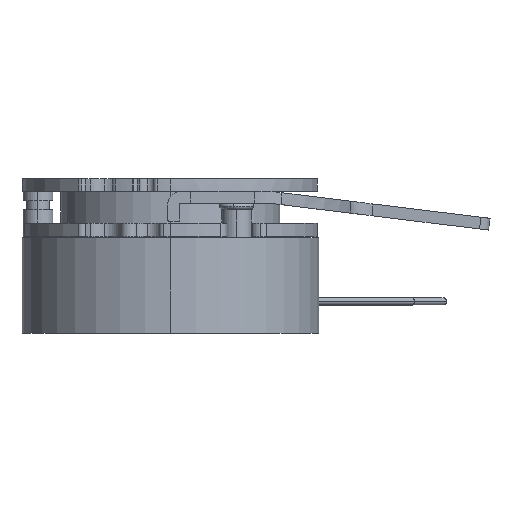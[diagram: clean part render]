
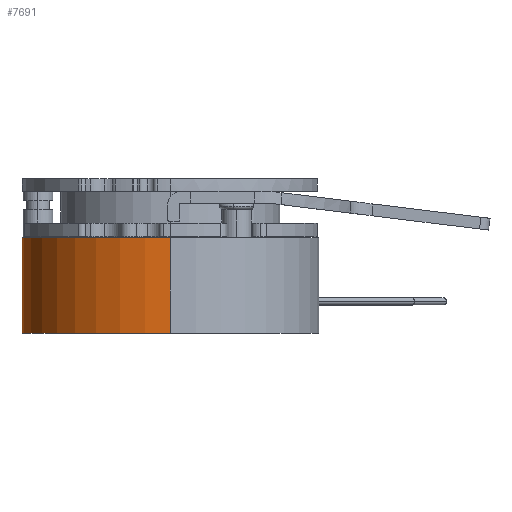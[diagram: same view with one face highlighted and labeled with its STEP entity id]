
A CAD part, left-side view. The second image highlights one B-rep face of the part: STEP entity #7691.
In plain terms, the highlighted cylindrical face has radius 32.5 mm (diameter 65 mm), a partial arc.
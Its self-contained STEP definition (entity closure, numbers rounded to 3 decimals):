
#1551 = CIRCLE ( 'NONE', #2102, 32.5 ) ;
#1554 = LINE ( 'NONE', #5498, #1558 ) ;
#1556 = CIRCLE ( 'NONE', #2103, 32.5 ) ;
#1558 = VECTOR ( 'NONE', #5496, 1000. ) ;
#1559 = LINE ( 'NONE', #5502, #1561 ) ;
#1561 = VECTOR ( 'NONE', #5497, 1000. ) ;
#2102 = AXIS2_PLACEMENT_3D ( 'NONE', #5499, #5500, #5501 ) ;
#2103 = AXIS2_PLACEMENT_3D ( 'NONE', #5503, #5504, #5505 ) ;
#2577 = CARTESIAN_POINT ( 'NONE',  ( 32.5, 0., 21. ) ) ;
#2586 = CARTESIAN_POINT ( 'NONE',  ( -32.5, 0., 21. ) ) ;
#2749 = CARTESIAN_POINT ( 'NONE',  ( -32.5, 0., 0. ) ) ;
#2751 = CARTESIAN_POINT ( 'NONE',  ( 32.5, 0., 0. ) ) ;
#3833 = CARTESIAN_POINT ( 'NONE',  ( 0., 0., 21. ) ) ;
#3836 = DIRECTION ( 'NONE',  ( 0., 0., -1. ) ) ;
#3844 = DIRECTION ( 'NONE',  ( -1., 0., 0. ) ) ;
#4497 = FACE_OUTER_BOUND ( 'NONE', #9869, .T. ) ;
#4513 = CYLINDRICAL_SURFACE ( 'NONE', #15803, 32.5 ) ;
#5496 = DIRECTION ( 'NONE',  ( 0., 0., -1. ) ) ;
#5497 = DIRECTION ( 'NONE',  ( 0., 0., -1. ) ) ;
#5498 = CARTESIAN_POINT ( 'NONE',  ( 32.5, 0., 21. ) ) ;
#5499 = CARTESIAN_POINT ( 'NONE',  ( 0., 0., 21. ) ) ;
#5500 = DIRECTION ( 'NONE',  ( 0., 0., 1. ) ) ;
#5501 = DIRECTION ( 'NONE',  ( 1., 0., 0. ) ) ;
#5502 = CARTESIAN_POINT ( 'NONE',  ( -32.5, 0., 21. ) ) ;
#5503 = CARTESIAN_POINT ( 'NONE',  ( 0., 0., 0. ) ) ;
#5504 = DIRECTION ( 'NONE',  ( 0., 0., 1. ) ) ;
#5505 = DIRECTION ( 'NONE',  ( 1., 0., 0. ) ) ;
#7691 = ADVANCED_FACE ( 'NONE', ( #4497 ), #4513, .T. ) ;
#9658 = EDGE_CURVE ( 'NONE', #9972, #10016, #1551, .T. ) ;
#9659 = EDGE_CURVE ( 'NONE', #9972, #10536, #1554, .T. ) ;
#9660 = EDGE_CURVE ( 'NONE', #10536, #10534, #1556, .T. ) ;
#9661 = EDGE_CURVE ( 'NONE', #10016, #10534, #1559, .T. ) ;
#9869 = EDGE_LOOP ( 'NONE', ( #11323, #11324, #11325, #11326 ) ) ;
#9972 = VERTEX_POINT ( 'NONE', #2577 ) ;
#10016 = VERTEX_POINT ( 'NONE', #2586 ) ;
#10534 = VERTEX_POINT ( 'NONE', #2749 ) ;
#10536 = VERTEX_POINT ( 'NONE', #2751 ) ;
#11323 = ORIENTED_EDGE ( 'NONE', *, *, #9658, .F. ) ;
#11324 = ORIENTED_EDGE ( 'NONE', *, *, #9659, .T. ) ;
#11325 = ORIENTED_EDGE ( 'NONE', *, *, #9660, .T. ) ;
#11326 = ORIENTED_EDGE ( 'NONE', *, *, #9661, .F. ) ;
#15803 = AXIS2_PLACEMENT_3D ( 'NONE', #3833, #3836, #3844 ) ;
